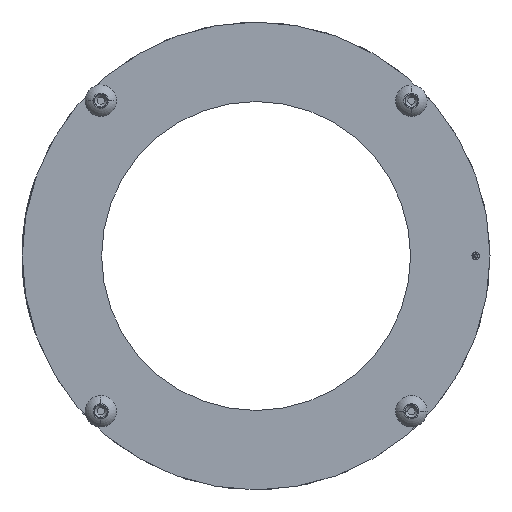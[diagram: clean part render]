
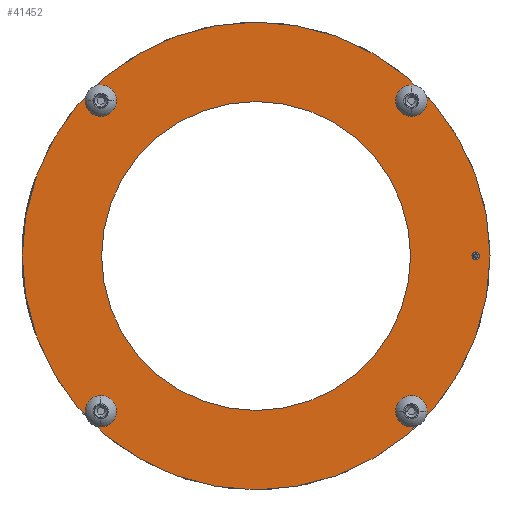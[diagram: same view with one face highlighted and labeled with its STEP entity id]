
A CAD part, front view. The second image highlights one B-rep face of the part: STEP entity #41452.
In plain terms, the highlighted planar face has unit normal (0, -1, 0).
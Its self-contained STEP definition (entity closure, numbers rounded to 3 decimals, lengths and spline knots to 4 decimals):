
#460 = CIRCLE ( 'NONE', #37079, 0.065 ) ;
#514 = AXIS2_PLACEMENT_3D ( 'NONE', #28549, #31543, #2407 ) ;
#1014 = AXIS2_PLACEMENT_3D ( 'NONE', #14637, #7895, #30931 ) ;
#1299 = VERTEX_POINT ( 'NONE', #26385 ) ;
#1775 = CARTESIAN_POINT ( 'NONE',  ( 0., 0., 0. ) ) ;
#1842 = DIRECTION ( 'NONE',  ( 0., 0., -1. ) ) ;
#1919 = AXIS2_PLACEMENT_3D ( 'NONE', #18378, #41470, #1842 ) ;
#1940 = ORIENTED_EDGE ( 'NONE', *, *, #7865, .T. ) ;
#2131 = VERTEX_POINT ( 'NONE', #14827 ) ;
#2405 = FACE_BOUND ( 'NONE', #9147, .T. ) ;
#2407 = DIRECTION ( 'NONE',  ( 0., 0., 1. ) ) ;
#2743 = EDGE_LOOP ( 'NONE', ( #36092, #5371 ) ) ;
#2781 = DIRECTION ( 'NONE',  ( 0., 0., 1. ) ) ;
#2794 = VERTEX_POINT ( 'NONE', #27574 ) ;
#3150 = CARTESIAN_POINT ( 'NONE',  ( 1.4805, 0., -1.4155 ) ) ;
#3153 = CARTESIAN_POINT ( 'NONE',  ( 0., 0., 0. ) ) ;
#3236 = VERTEX_POINT ( 'NONE', #13276 ) ;
#3519 = AXIS2_PLACEMENT_3D ( 'NONE', #10285, #36600, #33166 ) ;
#3661 = EDGE_CURVE ( 'NONE', #38034, #29843, #13803, .T. ) ;
#4508 = FACE_BOUND ( 'NONE', #22136, .T. ) ;
#4585 = PLANE ( 'NONE',  #1014 ) ;
#4682 = CARTESIAN_POINT ( 'NONE',  ( -1.4805, 0., -1.4805 ) ) ;
#5006 = FACE_BOUND ( 'NONE', #11423, .T. ) ;
#5227 = AXIS2_PLACEMENT_3D ( 'NONE', #12893, #22935, #39078 ) ;
#5338 = EDGE_CURVE ( 'NONE', #2794, #1299, #17818, .T. ) ;
#5371 = ORIENTED_EDGE ( 'NONE', *, *, #23242, .F. ) ;
#6094 = DIRECTION ( 'NONE',  ( 0., 0., 1. ) ) ;
#6549 = CARTESIAN_POINT ( 'NONE',  ( 1.4805, 0., 1.4805 ) ) ;
#6737 = DIRECTION ( 'NONE',  ( 0., 1., 0. ) ) ;
#7698 = DIRECTION ( 'NONE',  ( 0., 0., 1. ) ) ;
#7820 = VERTEX_POINT ( 'NONE', #19742 ) ;
#7865 = EDGE_CURVE ( 'NONE', #29843, #38034, #21608, .T. ) ;
#7895 = DIRECTION ( 'NONE',  ( 0., 1., 0. ) ) ;
#8254 = AXIS2_PLACEMENT_3D ( 'NONE', #18142, #21906, #21325 ) ;
#9147 = EDGE_LOOP ( 'NONE', ( #34305, #18379 ) ) ;
#9156 = CIRCLE ( 'NONE', #28929, 1.473 ) ;
#9292 = DIRECTION ( 'NONE',  ( 0., 1., 0. ) ) ;
#9356 = AXIS2_PLACEMENT_3D ( 'NONE', #4682, #20614, #7698 ) ;
#9428 = CARTESIAN_POINT ( 'NONE',  ( 2.0938, 0., 0. ) ) ;
#9813 = DIRECTION ( 'NONE',  ( 0., 1., 0. ) ) ;
#9816 = DIRECTION ( 'NONE',  ( 0., 0., 1. ) ) ;
#10152 = DIRECTION ( 'NONE',  ( 0., 1., 0. ) ) ;
#10223 = ORIENTED_EDGE ( 'NONE', *, *, #29520, .T. ) ;
#10285 = CARTESIAN_POINT ( 'NONE',  ( -1.4805, 0., 1.4805 ) ) ;
#11081 = AXIS2_PLACEMENT_3D ( 'NONE', #1775, #15578, #28612 ) ;
#11423 = EDGE_LOOP ( 'NONE', ( #39917, #39821 ) ) ;
#12677 = AXIS2_PLACEMENT_3D ( 'NONE', #6549, #10152, #36741 ) ;
#12893 = CARTESIAN_POINT ( 'NONE',  ( 0., 0., 0. ) ) ;
#12974 = CARTESIAN_POINT ( 'NONE',  ( 1.4805, 0., 1.5455 ) ) ;
#13136 = CARTESIAN_POINT ( 'NONE',  ( -1.4805, 0., 1.5455 ) ) ;
#13276 = CARTESIAN_POINT ( 'NONE',  ( 1.4805, 0., -1.5455 ) ) ;
#13497 = CARTESIAN_POINT ( 'NONE',  ( -1.4805, 0., 1.4805 ) ) ;
#13738 = FACE_BOUND ( 'NONE', #15916, .T. ) ;
#13796 = EDGE_LOOP ( 'NONE', ( #36965, #39331 ) ) ;
#13803 = CIRCLE ( 'NONE', #35133, 0.065 ) ;
#13931 = EDGE_CURVE ( 'NONE', #7820, #33497, #39494, .T. ) ;
#13982 = CARTESIAN_POINT ( 'NONE',  ( 0., 0., -1.473 ) ) ;
#14637 = CARTESIAN_POINT ( 'NONE',  ( 0., 0., 0. ) ) ;
#14827 = CARTESIAN_POINT ( 'NONE',  ( 0., 0., -2.23 ) ) ;
#15187 = ORIENTED_EDGE ( 'NONE', *, *, #5338, .F. ) ;
#15578 = DIRECTION ( 'NONE',  ( 0., 1., 0. ) ) ;
#15916 = EDGE_LOOP ( 'NONE', ( #10223, #41402 ) ) ;
#15998 = ORIENTED_EDGE ( 'NONE', *, *, #3661, .T. ) ;
#16093 = DIRECTION ( 'NONE',  ( 0., 1., 0. ) ) ;
#16737 = CIRCLE ( 'NONE', #514, 0.065 ) ;
#17769 = CIRCLE ( 'NONE', #38323, 0.065 ) ;
#17818 = CIRCLE ( 'NONE', #20279, 0.035 ) ;
#18142 = CARTESIAN_POINT ( 'NONE',  ( 1.4805, 0., -1.4805 ) ) ;
#18378 = CARTESIAN_POINT ( 'NONE',  ( 2.0938, 0., 0. ) ) ;
#18379 = ORIENTED_EDGE ( 'NONE', *, *, #38943, .T. ) ;
#18803 = EDGE_LOOP ( 'NONE', ( #42746, #15187 ) ) ;
#19742 = CARTESIAN_POINT ( 'NONE',  ( -1.4805, 0., -1.4155 ) ) ;
#20260 = CIRCLE ( 'NONE', #1919, 0.035 ) ;
#20279 = AXIS2_PLACEMENT_3D ( 'NONE', #9428, #35609, #42259 ) ;
#20614 = DIRECTION ( 'NONE',  ( 0., 1., 0. ) ) ;
#21325 = DIRECTION ( 'NONE',  ( 0., 0., 1. ) ) ;
#21608 = CIRCLE ( 'NONE', #3519, 0.065 ) ;
#21906 = DIRECTION ( 'NONE',  ( 0., 1., 0. ) ) ;
#21994 = FACE_BOUND ( 'NONE', #18803, .T. ) ;
#22136 = EDGE_LOOP ( 'NONE', ( #1940, #15998 ) ) ;
#22503 = FACE_BOUND ( 'NONE', #13796, .T. ) ;
#22738 = DIRECTION ( 'NONE',  ( 0., 0., 1. ) ) ;
#22935 = DIRECTION ( 'NONE',  ( 0., 1., 0. ) ) ;
#23242 = EDGE_CURVE ( 'NONE', #25853, #2131, #41806, .T. ) ;
#24615 = EDGE_CURVE ( 'NONE', #30037, #36631, #35044, .T. ) ;
#24635 = CARTESIAN_POINT ( 'NONE',  ( 0., 0., 1.473 ) ) ;
#24726 = VERTEX_POINT ( 'NONE', #12974 ) ;
#25031 = CIRCLE ( 'NONE', #5227, 2.23 ) ;
#25773 = CARTESIAN_POINT ( 'NONE',  ( 0., 0., 2.23 ) ) ;
#25826 = CARTESIAN_POINT ( 'NONE',  ( -1.4805, 0., -1.4805 ) ) ;
#25853 = VERTEX_POINT ( 'NONE', #25773 ) ;
#26385 = CARTESIAN_POINT ( 'NONE',  ( 2.0938, 0., -0.035 ) ) ;
#26404 = DIRECTION ( 'NONE',  ( 0., 1., 0. ) ) ;
#27574 = CARTESIAN_POINT ( 'NONE',  ( 2.0938, 0., 0.035 ) ) ;
#27730 = EDGE_CURVE ( 'NONE', #36631, #30037, #9156, .T. ) ;
#28549 = CARTESIAN_POINT ( 'NONE',  ( 1.4805, 0., 1.4805 ) ) ;
#28612 = DIRECTION ( 'NONE',  ( 0., 0., 1. ) ) ;
#28929 = AXIS2_PLACEMENT_3D ( 'NONE', #39325, #26404, #9816 ) ;
#29179 = EDGE_CURVE ( 'NONE', #24726, #29784, #41050, .T. ) ;
#29520 = EDGE_CURVE ( 'NONE', #31624, #3236, #40521, .T. ) ;
#29784 = VERTEX_POINT ( 'NONE', #39189 ) ;
#29799 = DIRECTION ( 'NONE',  ( 0., 0., 1. ) ) ;
#29843 = VERTEX_POINT ( 'NONE', #13136 ) ;
#30037 = VERTEX_POINT ( 'NONE', #24635 ) ;
#30044 = EDGE_CURVE ( 'NONE', #29784, #24726, #16737, .T. ) ;
#30368 = EDGE_CURVE ( 'NONE', #3236, #31624, #17769, .T. ) ;
#30607 = EDGE_CURVE ( 'NONE', #2131, #25853, #25031, .T. ) ;
#30744 = FACE_OUTER_BOUND ( 'NONE', #2743, .T. ) ;
#30931 = DIRECTION ( 'NONE',  ( 0., 0., 1. ) ) ;
#31250 = AXIS2_PLACEMENT_3D ( 'NONE', #3153, #16093, #22738 ) ;
#31543 = DIRECTION ( 'NONE',  ( 0., 1., 0. ) ) ;
#31624 = VERTEX_POINT ( 'NONE', #3150 ) ;
#32239 = EDGE_CURVE ( 'NONE', #1299, #2794, #20260, .T. ) ;
#33166 = DIRECTION ( 'NONE',  ( 0., 0., 1. ) ) ;
#33497 = VERTEX_POINT ( 'NONE', #35980 ) ;
#34305 = ORIENTED_EDGE ( 'NONE', *, *, #13931, .T. ) ;
#35044 = CIRCLE ( 'NONE', #31250, 1.473 ) ;
#35133 = AXIS2_PLACEMENT_3D ( 'NONE', #13497, #6737, #29799 ) ;
#35609 = DIRECTION ( 'NONE',  ( 0., -1., 0. ) ) ;
#35980 = CARTESIAN_POINT ( 'NONE',  ( -1.4805, 0., -1.5455 ) ) ;
#36092 = ORIENTED_EDGE ( 'NONE', *, *, #30607, .F. ) ;
#36600 = DIRECTION ( 'NONE',  ( 0., 1., 0. ) ) ;
#36631 = VERTEX_POINT ( 'NONE', #13982 ) ;
#36741 = DIRECTION ( 'NONE',  ( 0., 0., 1. ) ) ;
#36965 = ORIENTED_EDGE ( 'NONE', *, *, #24615, .T. ) ;
#37079 = AXIS2_PLACEMENT_3D ( 'NONE', #25826, #9813, #6094 ) ;
#38034 = VERTEX_POINT ( 'NONE', #42272 ) ;
#38323 = AXIS2_PLACEMENT_3D ( 'NONE', #38646, #9292, #2781 ) ;
#38646 = CARTESIAN_POINT ( 'NONE',  ( 1.4805, 0., -1.4805 ) ) ;
#38943 = EDGE_CURVE ( 'NONE', #33497, #7820, #460, .T. ) ;
#39078 = DIRECTION ( 'NONE',  ( 0., 0., 1. ) ) ;
#39189 = CARTESIAN_POINT ( 'NONE',  ( 1.4805, 0., 1.4155 ) ) ;
#39325 = CARTESIAN_POINT ( 'NONE',  ( 0., 0., 0. ) ) ;
#39331 = ORIENTED_EDGE ( 'NONE', *, *, #27730, .T. ) ;
#39494 = CIRCLE ( 'NONE', #9356, 0.065 ) ;
#39821 = ORIENTED_EDGE ( 'NONE', *, *, #30044, .T. ) ;
#39917 = ORIENTED_EDGE ( 'NONE', *, *, #29179, .T. ) ;
#40521 = CIRCLE ( 'NONE', #8254, 0.065 ) ;
#41050 = CIRCLE ( 'NONE', #12677, 0.065 ) ;
#41402 = ORIENTED_EDGE ( 'NONE', *, *, #30368, .T. ) ;
#41452 = ADVANCED_FACE ( 'NONE', ( #21994, #4508, #2405, #13738, #5006, #22503, #30744 ), #4585, .F. ) ;
#41470 = DIRECTION ( 'NONE',  ( 0., -1., 0. ) ) ;
#41806 = CIRCLE ( 'NONE', #11081, 2.23 ) ;
#42259 = DIRECTION ( 'NONE',  ( 0., 0., -1. ) ) ;
#42272 = CARTESIAN_POINT ( 'NONE',  ( -1.4805, 0., 1.4155 ) ) ;
#42746 = ORIENTED_EDGE ( 'NONE', *, *, #32239, .F. ) ;
